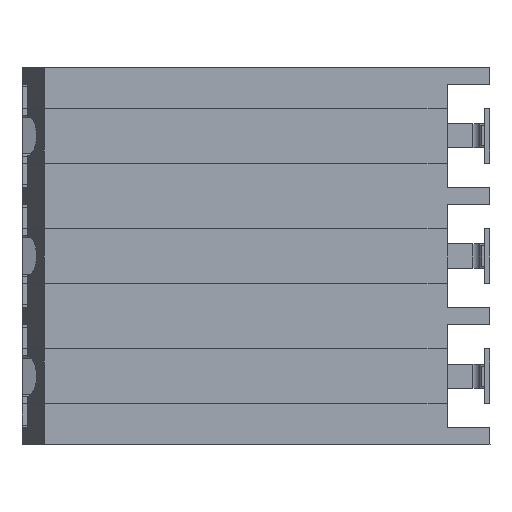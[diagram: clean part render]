
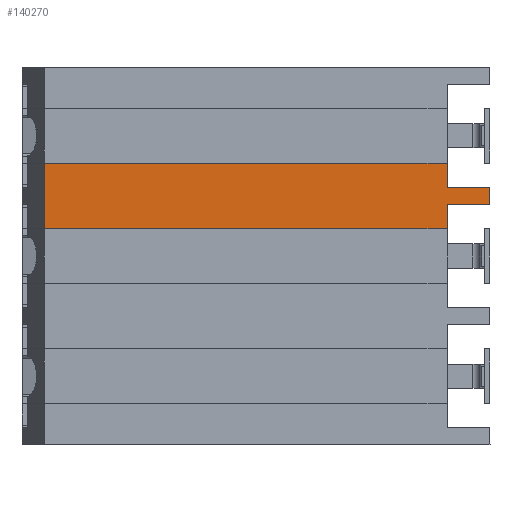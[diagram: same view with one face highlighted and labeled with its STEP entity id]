
A CAD part, left-side view. The second image highlights one B-rep face of the part: STEP entity #140270.
In plain terms, the highlighted planar face has unit normal (-1, 0, 0) as drawn and (-0.342, -0.94, 0) by its records, which use the part's own axes.
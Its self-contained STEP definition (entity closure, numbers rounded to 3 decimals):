
#18190=CARTESIAN_POINT('',(-35.36,-44.584,
-0.675));
#18200=VERTEX_POINT('',#18190);
#75980=CARTESIAN_POINT('',(0.,-57.455,-0.675));
#75990=DIRECTION('',(0.94,-0.342,
0.));
#76000=VECTOR('',#75990,1.);
#76010=LINE('',#75980,#76000);
#76020=CARTESIAN_POINT('',(-24.34,-48.595,
-0.675));
#76030=VERTEX_POINT('',#76020);
#76040=EDGE_CURVE('',#18200,#76030,#76010,.T.);
#96680=CARTESIAN_POINT('',(-23.166,-49.023,
-1.375));
#96690=VERTEX_POINT('',#96680);
#96720=CARTESIAN_POINT('',(0.,-57.455,-1.375));
#96730=DIRECTION('',(0.94,-0.342,
0.));
#96740=VECTOR('',#96730,1.);
#96750=LINE('',#96720,#96740);
#96760=CARTESIAN_POINT('',(-24.34,-48.595,
-1.375));
#96770=VERTEX_POINT('',#96760);
#96780=EDGE_CURVE('',#96770,#96690,#96750,.T.);
#97500=CARTESIAN_POINT('',(-24.34,-48.595,
-1.875));
#97510=VERTEX_POINT('',#97500);
#97540=CARTESIAN_POINT('',(0.,-57.455,-1.875));
#97550=DIRECTION('',(0.94,-0.342,
0.));
#97560=VECTOR('',#97550,1.);
#97570=LINE('',#97540,#97560);
#97580=CARTESIAN_POINT('',(-23.166,-49.023,
-1.875));
#97590=VERTEX_POINT('',#97580);
#97600=EDGE_CURVE('',#97510,#97590,#97570,.T.);
#98370=CARTESIAN_POINT('',(-23.166,-49.023,0.));
#98380=DIRECTION('',(0.,0.,-1.));
#98390=VECTOR('',#98380,1.);
#98400=LINE('',#98370,#98390);
#98410=EDGE_CURVE('',#96690,#97590,#98400,.T.);
#138270=CARTESIAN_POINT('',(-35.36,-44.584,
-2.575));
#138280=VERTEX_POINT('',#138270);
#138310=CARTESIAN_POINT('',(-35.36,-44.584,0.));
#138320=DIRECTION('',(0.,0.,-1.));
#138330=VECTOR('',#138320,1.);
#138340=LINE('',#138310,#138330);
#138470=CARTESIAN_POINT('',(-24.951,-48.373,
-26.968));
#138480=DIRECTION('',(-0.342,-0.94,
0.));
#138490=DIRECTION('',(0.94,-0.342,
0.));
#138500=AXIS2_PLACEMENT_3D('',#138470,#138480,#138490);
#138510=PLANE('',#138500);
#138610=CARTESIAN_POINT('',(0.,-57.455,-2.575));
#138620=DIRECTION('',(-0.94,0.342,
0.));
#138630=VECTOR('',#138620,1.);
#138640=LINE('',#138610,#138630);
#138650=CARTESIAN_POINT('',(-24.34,-48.595,
-2.575));
#138660=VERTEX_POINT('',#138650);
#138670=EDGE_CURVE('',#138660,#138280,#138640,.T.);
#138690=CARTESIAN_POINT('',(-24.34,-48.595,0.));
#138700=DIRECTION('',(0.,0.,-1.));
#138710=VECTOR('',#138700,1.);
#138720=LINE('',#138690,#138710);
#139980=EDGE_CURVE('',#18200,#138280,#138340,.T.);
#140110=CARTESIAN_POINT('',(-24.34,-48.595,0.));
#140120=DIRECTION('',(0.,0.,-1.));
#140130=VECTOR('',#140120,1.);
#140140=LINE('',#140110,#140130);
#140150=EDGE_CURVE('',#76030,#96770,#140140,.T.);
#140160=ORIENTED_EDGE('',*,*,#140150,.F.);
#140170=ORIENTED_EDGE('',*,*,#96780,.F.);
#140180=ORIENTED_EDGE('',*,*,#98410,.F.);
#140190=ORIENTED_EDGE('',*,*,#97600,.T.);
#140200=EDGE_CURVE('',#97510,#138660,#138720,.T.);
#140210=ORIENTED_EDGE('',*,*,#140200,.F.);
#140220=ORIENTED_EDGE('',*,*,#138670,.F.);
#140230=ORIENTED_EDGE('',*,*,#139980,.T.);
#140240=ORIENTED_EDGE('',*,*,#76040,.F.);
#140250=EDGE_LOOP('',(#140240,#140230,#140220,#140210,#140190,#140180,
#140170,#140160));
#140260=FACE_OUTER_BOUND('',#140250,.T.);
#140270=ADVANCED_FACE('',(#140260),#138510,.T.);
